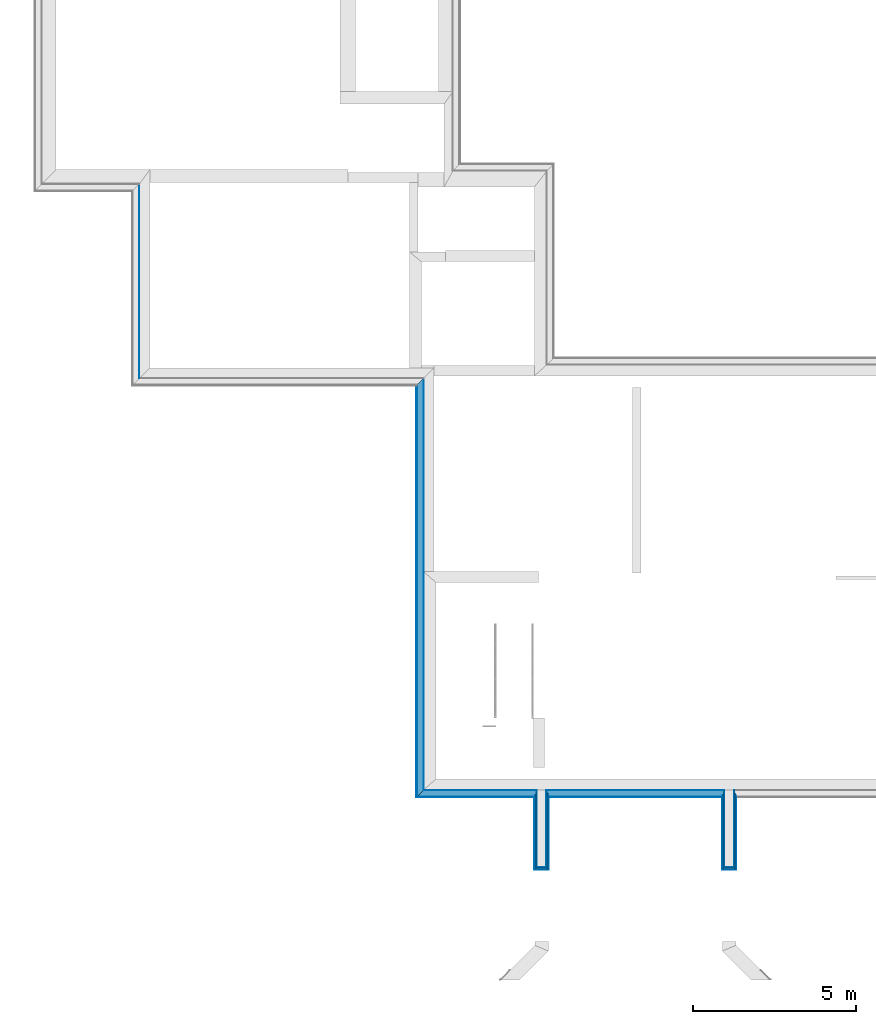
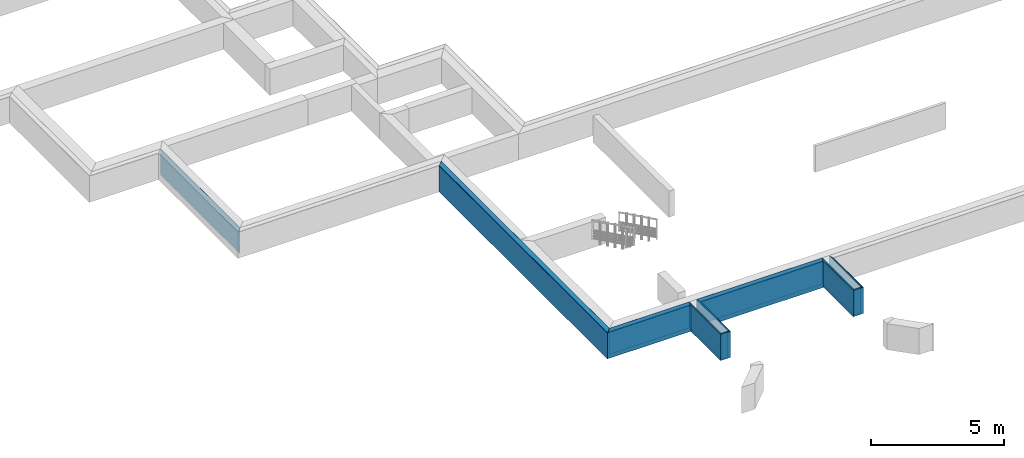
# One storey, part 11 of 16: 28 building element parts, 10 elements without a shape of their own.
"""IFC2X3 building model written with IfcOpenShell, lengths in millimetres."""

from ifc_helpers import new_model, entity, si_unit, converted_unit, derived_unit, money_unit, direction, frame, origin_with_axes, place, context, subcontext, project, spatial, polyline, outline, extrude, material, type_object, element, aggregate, save


model = new_model("IFC2X3")

# Units and contexts
model_context = context("Model", 3, precision=0.01, world=origin_with_axes(), true_north=direction((0.0, 1.0)))
body_context = subcontext(model_context, "Body", "Model", "MODEL_VIEW")
ifc_project = project(units=[si_unit("LENGTHUNIT", "METRE", prefix="MILLI"), si_unit("AREAUNIT", "SQUARE_METRE"), si_unit("VOLUMEUNIT", "CUBIC_METRE"), converted_unit("PLANEANGLEUNIT", "DEGREE", entity("IfcPlaneAngleMeasure", 0.0174532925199), si_unit("PLANEANGLEUNIT", "RADIAN"), dimensions=[0, 0, 0, 0, 0, 0, 0]), si_unit("SOLIDANGLEUNIT", "STERADIAN"), money_unit("EUR"), converted_unit("TIMEUNIT", "Year", entity("IfcTimeMeasure", 31556926.0), si_unit("TIMEUNIT", "SECOND"), dimensions=[0, 0, 1, 0, 0, 0, 0]), si_unit("MASSUNIT", "GRAM", prefix="KILO"), si_unit("THERMODYNAMICTEMPERATUREUNIT", "DEGREE_CELSIUS"), si_unit("LUMINOUSINTENSITYUNIT", "LUMEN"), si_unit("ENERGYUNIT", "JOULE", prefix="MEGA"), derived_unit("THERMALCONDUCTANCEUNIT", [(si_unit("POWERUNIT", "WATT"), 1), (si_unit("LENGTHUNIT", "METRE"), -1), (si_unit("THERMODYNAMICTEMPERATUREUNIT", "KELVIN"), -1)]), derived_unit("SPECIFICHEATCAPACITYUNIT", [(si_unit("ENERGYUNIT", "JOULE"), 1), (si_unit("MASSUNIT", "GRAM", prefix="KILO"), -1), (si_unit("THERMODYNAMICTEMPERATUREUNIT", "KELVIN"), -1)]), derived_unit("MASSDENSITYUNIT", [(si_unit("MASSUNIT", "GRAM", prefix="KILO"), 1), (si_unit("VOLUMEUNIT", "CUBIC_METRE"), -1)])], contexts=[model_context])

# Site, building, storey
site_placement = place(None, origin_with_axes())
site = spatial("IfcSite", under=ifc_project, at=site_placement, Name="Paldiski mnt 245/1, Tallinn, Harjumaa", CompositionType="COMPLEX")
building_placement = place(site_placement, origin_with_axes())
building = spatial("IfcBuilding", under=site, at=building_placement, Name="RKAS Hoone üldnimetus (kasutust iseloomustav) -> IFC Project Manager -> SOLIBRI", CompositionType="ELEMENT")
storey_placement = place(building_placement, frame((0.0, 0.0, -1200.0), z_axis=(0.0, 0.0, 1.0), x_axis=(1.0, 0.0, 0.0)))
storey = spatial("IfcBuildingStorey", under=building, at=storey_placement, Name="Vundament", CompositionType="ELEMENT", Elevation=-1200.0)

# Wall, building element part
wall_type_1 = type_object("IfcWallType", Name="VS-01 221", PredefinedType="NOTDEFINED")
wall_1_placement = place(storey_placement, frame((-56710.0, 5790.0, 0.0), z_axis=(0.0, 0.0, 1.0), x_axis=(0.0, -1.0, 0.0)))
wall_1 = element("IfcWall", 1, at=wall_1_placement, inside=storey, type_object=wall_type_1, Name="VS-01")
ifc_material_1 = material(Name="Võõphüdroisolatsioon")
building_element_part_1_placement = place(wall_1_placement, origin_with_axes())
building_element_part_1 = element("IfcBuildingElementPart", 2, at=building_element_part_1_placement, material=ifc_material_1, Name="Võõphüdroisolatsioon", context=body_context, shape_type="SweptSolid", body=[
    extrude(outline(polyline([(1.00000000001, -0.999999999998), (5981.0, -0.999999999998), (5980.0, 0.0), (0.0, 0.0), (1.00000000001, -0.999999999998)])), origin_with_axes(), (0.0, 0.0, 1.0), 1200.0),
])
aggregate(wall_1, [building_element_part_1])

# Wall, building element parts
wall_2_placement = place(storey_placement, frame((-47970.0, -189.999999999, 0.0), z_axis=(0.0, 0.0, 1.0), x_axis=(0.0, -1.0, 0.0)))
wall_2 = element("IfcWall", 3, at=wall_2_placement, inside=storey, type_object=wall_type_1, Name="VS-01")
building_element_part_2_placement = place(wall_2_placement, origin_with_axes())
building_element_part_2 = element("IfcBuildingElementPart", 4, at=building_element_part_2_placement, material=ifc_material_1, Name="Võõphüdroisolatsioon", context=body_context, shape_type="SweptSolid", body=[
    extrude(outline(polyline([(1.00000000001, -0.999999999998), (12661.0843011, -0.999999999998), (12660.0843011, 0.0), (0.0, 0.0), (1.00000000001, -0.999999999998)])), origin_with_axes(), (0.0, 0.0, 1.0), 1200.0),
])
ifc_material_2 = material(Name="EPS 120 Perimeeter")
building_element_part_3_placement = place(wall_2_placement, origin_with_axes())
building_element_part_3 = element("IfcBuildingElementPart", 5, at=building_element_part_3_placement, material=ifc_material_2, Name="EPS 120 Perimeeter", context=body_context, shape_type="SweptSolid", body=[
    extrude(outline(polyline([(201.0, -201.0), (12861.0843011, -201.0), (12661.0843011, -0.999999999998), (1.00000000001, -0.999999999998), (201.0, -201.0)])), origin_with_axes(), (0.0, 0.0, 1.0), 1200.0),
])
ifc_material_3 = material(Name="Krohvisüsteem Weber vms")
building_element_part_4_placement = place(wall_2_placement, origin_with_axes())
building_element_part_4 = element("IfcBuildingElementPart", 6, at=building_element_part_4_placement, material=ifc_material_3, Name="Krohvisüsteem Weber vms", context=body_context, shape_type="SweptSolid", body=[
    extrude(outline(polyline([(221.0, -221.0), (12881.0843011, -221.0), (12861.0843011, -201.0), (201.0, -201.0), (221.0, -221.0)])), origin_with_axes(), (0.0, 0.0, 1.0), 1200.0),
])
aggregate(wall_2, [building_element_part_2, building_element_part_3, building_element_part_4])

wall_3_placement = place(storey_placement, frame((-47970.0, -12850.0843011, 0.0), z_axis=(0.0, 0.0, 1.0), x_axis=(1.0, 0.0, 0.0)))
wall_3 = element("IfcWall", 7, at=wall_3_placement, inside=storey, type_object=wall_type_1, Name="VS-01")
building_element_part_5_placement = place(wall_3_placement, origin_with_axes())
building_element_part_5 = element("IfcBuildingElementPart", 8, at=building_element_part_5_placement, material=ifc_material_1, Name="Võõphüdroisolatsioon", context=body_context, shape_type="SweptSolid", body=[
    extrude(outline(polyline([(-1.0, -0.999999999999), (3479.67873303, -0.999999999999), (3480.0, 0.0), (0.0, 0.0), (-1.0, -0.999999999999)])), origin_with_axes(), (0.0, 0.0, 1.0), 1200.0),
])
building_element_part_6_placement = place(wall_3_placement, origin_with_axes())
building_element_part_6 = element("IfcBuildingElementPart", 9, at=building_element_part_6_placement, material=ifc_material_2, Name="EPS 120 Perimeeter", context=body_context, shape_type="SweptSolid", body=[
    extrude(outline(polyline([(-201.0, -201.0), (3415.42533937, -201.0), (3479.67873303, -0.999999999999), (-1.0, -0.999999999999), (-201.0, -201.0)])), origin_with_axes(), (0.0, 0.0, 1.0), 1200.0),
])
building_element_part_7_placement = place(wall_3_placement, origin_with_axes())
building_element_part_7 = element("IfcBuildingElementPart", 10, at=building_element_part_7_placement, material=ifc_material_3, Name="Krohvisüsteem Weber vms", context=body_context, shape_type="SweptSolid", body=[
    extrude(outline(polyline([(-221.0, -221.0), (3409.0, -221.0), (3415.42533937, -201.0), (-201.0, -201.0), (-221.0, -221.0)])), origin_with_axes(), (0.0, 0.0, 1.0), 1200.0),
])
aggregate(wall_3, [building_element_part_5, building_element_part_6, building_element_part_7])

wall_type_2 = type_object("IfcWallType", Name="VS-01.1 71", PredefinedType="NOTDEFINED")
wall_4_placement = place(storey_placement, frame((-44490.0, -12850.0843011, 0.0), z_axis=(0.0, 0.0, 1.0), x_axis=(0.0, -1.0, 0.0)))
wall_4 = element("IfcWall", 11, at=wall_4_placement, inside=storey, type_object=wall_type_2, Name="VS-01.1")
building_element_part_8_placement = place(wall_4_placement, origin_with_axes())
building_element_part_8 = element("IfcBuildingElementPart", 12, at=building_element_part_8_placement, material=ifc_material_1, Name="Võõphüdroisolatsioon", context=body_context, shape_type="SweptSolid", body=[
    extrude(outline(polyline([(3.11267605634, -0.999999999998), (2380.99998681, -0.999999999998), (2380.0, 0.0), (0.0, 0.0), (3.11267605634, -0.999999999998)])), origin_with_axes(), (0.0, 0.0, 1.0), 1200.0),
])
building_element_part_9_placement = place(wall_4_placement, origin_with_axes())
building_element_part_9 = element("IfcBuildingElementPart", 13, at=building_element_part_9_placement, material=ifc_material_2, Name="EPS 120 Perimeeter", context=body_context, shape_type="SweptSolid", body=[
    extrude(outline(polyline([(158.746478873, -51.0), (2430.99932717, -51.0), (2380.99998681, -0.999999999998), (3.11267605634, -0.999999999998), (158.746478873, -51.0)])), origin_with_axes(), (0.0, 0.0, 1.0), 1200.0),
])
building_element_part_10_placement = place(wall_4_placement, origin_with_axes())
building_element_part_10 = element("IfcBuildingElementPart", 14, at=building_element_part_10_placement, material=ifc_material_3, Name="Krohvisüsteem Weber vms", context=body_context, shape_type="SweptSolid", body=[
    extrude(outline(polyline([(221.0, -71.0), (2450.99906332, -71.0), (2430.99932717, -51.0), (158.746478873, -51.0), (221.0, -71.0)])), origin_with_axes(), (0.0, 0.0, 1.0), 1200.0),
])
aggregate(wall_4, [building_element_part_8, building_element_part_9, building_element_part_10])

wall_5_placement = place(storey_placement, frame((-44490.0, -15230.0843011, 0.0), z_axis=(0.0, 0.0, 1.0), x_axis=(0.999999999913, -1.31927567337e-05, 0.0)))
wall_5 = element("IfcWall", 15, at=wall_5_placement, inside=storey, type_object=wall_type_2, Name="VS-01.1")
building_element_part_11_placement = place(wall_5_placement, origin_with_axes())
building_element_part_11 = element("IfcBuildingElementPart", 16, at=building_element_part_11_placement, material=ifc_material_1, Name="Võõphüdroisolatsioon", context=body_context, shape_type="SweptSolid", body=[
    extrude(outline(polyline([(-0.999986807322, -1.0), (301.000013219, -1.0), (300.000000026, 0.0), (0.0, 0.0), (-0.999986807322, -1.0)])), origin_with_axes(), (0.0, 0.0, 1.0), 1200.0),
])
building_element_part_12_placement = place(wall_5_placement, origin_with_axes())
building_element_part_12 = element("IfcBuildingElementPart", 17, at=building_element_part_12_placement, material=ifc_material_2, Name="EPS 120 Perimeeter", context=body_context, shape_type="SweptSolid", body=[
    extrude(outline(polyline([(-50.9993271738, -51.0), (351.000672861, -51.0), (301.000013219, -1.0), (-0.999986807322, -1.0), (-50.9993271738, -51.0)])), origin_with_axes(), (0.0, 0.0, 1.0), 1200.0),
])
building_element_part_13_placement = place(wall_5_placement, origin_with_axes())
building_element_part_13 = element("IfcBuildingElementPart", 18, at=building_element_part_13_placement, material=ifc_material_3, Name="Krohvisüsteem Weber vms", context=body_context, shape_type="SweptSolid", body=[
    extrude(outline(polyline([(-70.9990633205, -71.0), (371.000936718, -71.0), (351.000672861, -51.0), (-50.9993271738, -51.0), (-70.9990633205, -71.0)])), origin_with_axes(), (0.0, 0.0, 1.0), 1200.0),
])
aggregate(wall_5, [building_element_part_11, building_element_part_12, building_element_part_13])

wall_6_placement = place(storey_placement, frame((-44190.0, -15230.0901323, 0.0), z_axis=(0.0, 0.0, 1.0), x_axis=(0.0, 1.0, 0.0)))
wall_6 = element("IfcWall", 19, at=wall_6_placement, inside=storey, type_object=wall_type_2, Name="VS-01.1")
building_element_part_14_placement = place(wall_6_placement, origin_with_axes())
building_element_part_14 = element("IfcBuildingElementPart", 20, at=building_element_part_14_placement, material=ifc_material_1, Name="Võõphüdroisolatsioon", context=body_context, shape_type="SweptSolid", body=[
    extrude(outline(polyline([(-0.998139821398, -0.999999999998), (2376.89315514, -0.999999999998), (2380.0058312, 0.0), (0.00187337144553, 0.0), (-0.998139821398, -0.999999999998)])), origin_with_axes(), (0.0, 0.0, 1.0), 1200.0),
])
building_element_part_15_placement = place(wall_6_placement, origin_with_axes())
building_element_part_15 = element("IfcBuildingElementPart", 21, at=building_element_part_15_placement, material=ifc_material_2, Name="EPS 120 Perimeeter", context=body_context, shape_type="SweptSolid", body=[
    extrude(outline(polyline([(-50.9987994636, -51.0), (2221.25935233, -51.0), (2376.89315514, -0.999999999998), (-0.998139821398, -0.999999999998), (-50.9987994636, -51.0)])), origin_with_axes(), (0.0, 0.0, 1.0), 1200.0),
])
building_element_part_16_placement = place(wall_6_placement, origin_with_axes())
building_element_part_16 = element("IfcBuildingElementPart", 22, at=building_element_part_16_placement, material=ifc_material_3, Name="Krohvisüsteem Weber vms", context=body_context, shape_type="SweptSolid", body=[
    extrude(outline(polyline([(-70.9990633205, -71.0), (2159.0058312, -71.0), (2221.25935233, -51.0), (-50.9987994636, -51.0), (-70.9990633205, -71.0)])), origin_with_axes(), (0.0, 0.0, 1.0), 1200.0),
])
aggregate(wall_6, [building_element_part_14, building_element_part_15, building_element_part_16])

wall_7_placement = place(storey_placement, frame((-44190.0, -12850.0843011, 0.0), z_axis=(0.0, 0.0, 1.0), x_axis=(1.0, 0.0, 0.0)))
wall_7 = element("IfcWall", 23, at=wall_7_placement, inside=storey, type_object=wall_type_1, Name="VS-01")
building_element_part_17_placement = place(wall_7_placement, origin_with_axes())
building_element_part_17 = element("IfcBuildingElementPart", 24, at=building_element_part_17_placement, material=ifc_material_1, Name="Võõphüdroisolatsioon", context=body_context, shape_type="SweptSolid", body=[
    extrude(outline(polyline([(0.321266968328, -0.999999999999), (5469.67873303, -0.999999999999), (5470.0, 0.0), (0.0, 0.0), (0.321266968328, -0.999999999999)])), origin_with_axes(), (0.0, 0.0, 1.0), 1200.0),
])
building_element_part_18_placement = place(wall_7_placement, origin_with_axes())
building_element_part_18 = element("IfcBuildingElementPart", 25, at=building_element_part_18_placement, material=ifc_material_2, Name="EPS 120 Perimeeter", context=body_context, shape_type="SweptSolid", body=[
    extrude(outline(polyline([(64.5746606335, -201.0), (5405.42533937, -201.0), (5469.67873303, -0.999999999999), (0.321266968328, -0.999999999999), (64.5746606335, -201.0)])), origin_with_axes(), (0.0, 0.0, 1.0), 1200.0),
])
building_element_part_19_placement = place(wall_7_placement, origin_with_axes())
building_element_part_19 = element("IfcBuildingElementPart", 26, at=building_element_part_19_placement, material=ifc_material_3, Name="Krohvisüsteem Weber vms", context=body_context, shape_type="SweptSolid", body=[
    extrude(outline(polyline([(71.0, -221.0), (5399.0, -221.0), (5405.42533937, -201.0), (64.5746606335, -201.0), (71.0, -221.0)])), origin_with_axes(), (0.0, 0.0, 1.0), 1200.0),
])
aggregate(wall_7, [building_element_part_17, building_element_part_18, building_element_part_19])

wall_8_placement = place(storey_placement, frame((-38720.0, -12850.0843011, 0.0), z_axis=(0.0, 0.0, 1.0), x_axis=(0.0, -1.0, 0.0)))
wall_8 = element("IfcWall", 27, at=wall_8_placement, inside=storey, type_object=wall_type_2, Name="VS-01.1")
building_element_part_20_placement = place(wall_8_placement, origin_with_axes())
building_element_part_20 = element("IfcBuildingElementPart", 28, at=building_element_part_20_placement, material=ifc_material_1, Name="Võõphüdroisolatsioon", context=body_context, shape_type="SweptSolid", body=[
    extrude(outline(polyline([(3.11267605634, -0.999999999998), (2381.00490777, -0.999999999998), (2380.00489458, 0.0), (0.0, 0.0), (3.11267605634, -0.999999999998)])), origin_with_axes(), (0.0, 0.0, 1.0), 1200.0),
])
building_element_part_21_placement = place(wall_8_placement, origin_with_axes())
building_element_part_21 = element("IfcBuildingElementPart", 29, at=building_element_part_21_placement, material=ifc_material_2, Name="EPS 120 Perimeeter", context=body_context, shape_type="SweptSolid", body=[
    extrude(outline(polyline([(158.746478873, -51.0), (2431.00556737, -51.0), (2381.00490777, -0.999999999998), (3.11267605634, -0.999999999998), (158.746478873, -51.0)])), origin_with_axes(), (0.0, 0.0, 1.0), 1200.0),
])
building_element_part_22_placement = place(wall_8_placement, origin_with_axes())
building_element_part_22 = element("IfcBuildingElementPart", 30, at=building_element_part_22_placement, material=ifc_material_3, Name="Krohvisüsteem Weber vms", context=body_context, shape_type="SweptSolid", body=[
    extrude(outline(polyline([(221.0, -71.0), (2451.0058312, -71.0), (2431.00556737, -51.0), (158.746478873, -51.0), (221.0, -71.0)])), origin_with_axes(), (0.0, 0.0, 1.0), 1200.0),
])
aggregate(wall_8, [building_element_part_20, building_element_part_21, building_element_part_22])

wall_9_placement = place(storey_placement, frame((-38720.0, -15230.0891957, 0.0), z_axis=(0.0, 0.0, 1.0), x_axis=(0.999999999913, 1.31918655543e-05, 0.0)))
wall_9 = element("IfcWall", 31, at=wall_9_placement, inside=storey, type_object=wall_type_2, Name="VS-01.1")
building_element_part_23_placement = place(wall_9_placement, origin_with_axes())
building_element_part_23 = element("IfcBuildingElementPart", 32, at=building_element_part_23_placement, material=ifc_material_1, Name="Võõphüdroisolatsioon", context=body_context, shape_type="SweptSolid", body=[
    extrude(outline(polyline([(-1.00001319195, -0.999999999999), (300.999986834, -0.999999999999), (300.000000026, 0.0), (0.0, 0.0), (-1.00001319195, -0.999999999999)])), origin_with_axes(), (0.0, 0.0, 1.0), 1200.0),
])
building_element_part_24_placement = place(wall_9_placement, origin_with_axes())
building_element_part_24 = element("IfcBuildingElementPart", 33, at=building_element_part_24_placement, material=ifc_material_2, Name="EPS 120 Perimeeter", context=body_context, shape_type="SweptSolid", body=[
    extrude(outline(polyline([(-51.0006727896, -51.0), (350.999327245, -51.0), (300.999986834, -0.999999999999), (-1.00001319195, -0.999999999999), (-51.0006727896, -51.0)])), origin_with_axes(), (0.0, 0.0, 1.0), 1200.0),
])
building_element_part_25_placement = place(wall_9_placement, origin_with_axes())
building_element_part_25 = element("IfcBuildingElementPart", 34, at=building_element_part_25_placement, material=ifc_material_3, Name="Krohvisüsteem Weber vms", context=body_context, shape_type="SweptSolid", body=[
    extrude(outline(polyline([(-71.0009366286, -71.0), (370.99906341, -71.0), (350.999327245, -51.0), (-51.0006727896, -51.0), (-71.0009366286, -71.0)])), origin_with_axes(), (0.0, 0.0, 1.0), 1200.0),
])
aggregate(wall_9, [building_element_part_23, building_element_part_24, building_element_part_25])

wall_10_placement = place(storey_placement, frame((-38420.0, -15230.0852381, 0.0), z_axis=(0.0, 0.0, 1.0), x_axis=(0.0, 1.0, 0.0)))
wall_10 = element("IfcWall", 35, at=wall_10_placement, inside=storey, type_object=wall_type_2, Name="VS-01.1")
building_element_part_26_placement = place(wall_10_placement, origin_with_axes())
building_element_part_26 = element("IfcBuildingElementPart", 36, at=building_element_part_26_placement, material=ifc_material_1, Name="Võõphüdroisolatsioon", context=body_context, shape_type="SweptSolid", body=[
    extrude(outline(polyline([(-0.999986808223, -0.999999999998), (2376.88826096, -0.999999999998), (2380.00093702, 0.0), (0.0, 0.0), (-0.999986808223, -0.999999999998)])), origin_with_axes(), (0.0, 0.0, 1.0), 1200.0),
])
building_element_part_27_placement = place(wall_10_placement, origin_with_axes())
building_element_part_27 = element("IfcBuildingElementPart", 37, at=building_element_part_27_placement, material=ifc_material_2, Name="EPS 120 Perimeeter", context=body_context, shape_type="SweptSolid", body=[
    extrude(outline(polyline([(-50.9993272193, -51.0), (2221.25445814, -51.0), (2376.88826096, -0.999999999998), (-0.999986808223, -0.999999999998), (-50.9993272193, -51.0)])), origin_with_axes(), (0.0, 0.0, 1.0), 1200.0),
])
building_element_part_28_placement = place(wall_10_placement, origin_with_axes())
building_element_part_28 = element("IfcBuildingElementPart", 38, at=building_element_part_28_placement, material=ifc_material_3, Name="Krohvisüsteem Weber vms", context=body_context, shape_type="SweptSolid", body=[
    extrude(outline(polyline([(-70.9990633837, -71.0), (2159.00093702, -71.0), (2221.25445814, -51.0), (-50.9993272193, -51.0), (-70.9990633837, -71.0)])), origin_with_axes(), (0.0, 0.0, 1.0), 1200.0),
])
aggregate(wall_10, [building_element_part_26, building_element_part_27, building_element_part_28])

save(model, "model.ifc")
